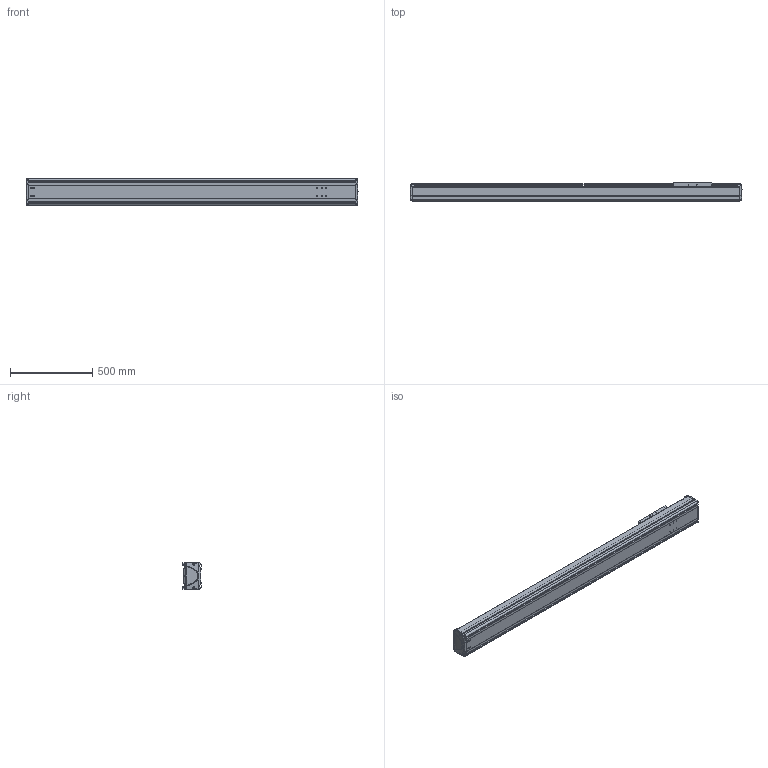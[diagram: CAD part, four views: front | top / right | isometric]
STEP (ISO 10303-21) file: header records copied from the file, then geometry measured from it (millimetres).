
FILE_DESCRIPTION((''),'2;1');
FILE_NAME('BE50G-ST-L_B-F5_IGS_PRT','2017-06-18T',(' '),(''),'PRO/ENGINEER BY PARAMETRIC TECHNOLOGY CORPORATION, 2015030','PRO/ENGINEER BY PARAMETRIC TECHNOLOGY CORPORATION, 2015030','');
FILE_SCHEMA(('CONFIG_CONTROL_DESIGN'));
Length unit declared in the file: millimetre
Products named in the file (1): BE50G-ST-L_B-F5_IGS_PRT
Bounding box: 2014.98 x 110 x 160 mm (x, y, z)
Volume: 8369283.4 mm3; surface area: 3025884.4 mm2
Topology: 3 solids, 118 shells, 1792 faces, 4838 edges, 3125 vertices
Faces by surface type: cylinder 850, plane 613, bspline 102, cone 100, torus 87, sphere 40
Entity records: 62458 total; most frequent: CARTESIAN_POINT 18049, ORIENTED_EDGE 9150, DIRECTION 9028, EDGE_CURVE 4802, AXIS2_PLACEMENT_3D 3412, VERTEX_POINT 3117, VECTOR 2204, LINE 2204
